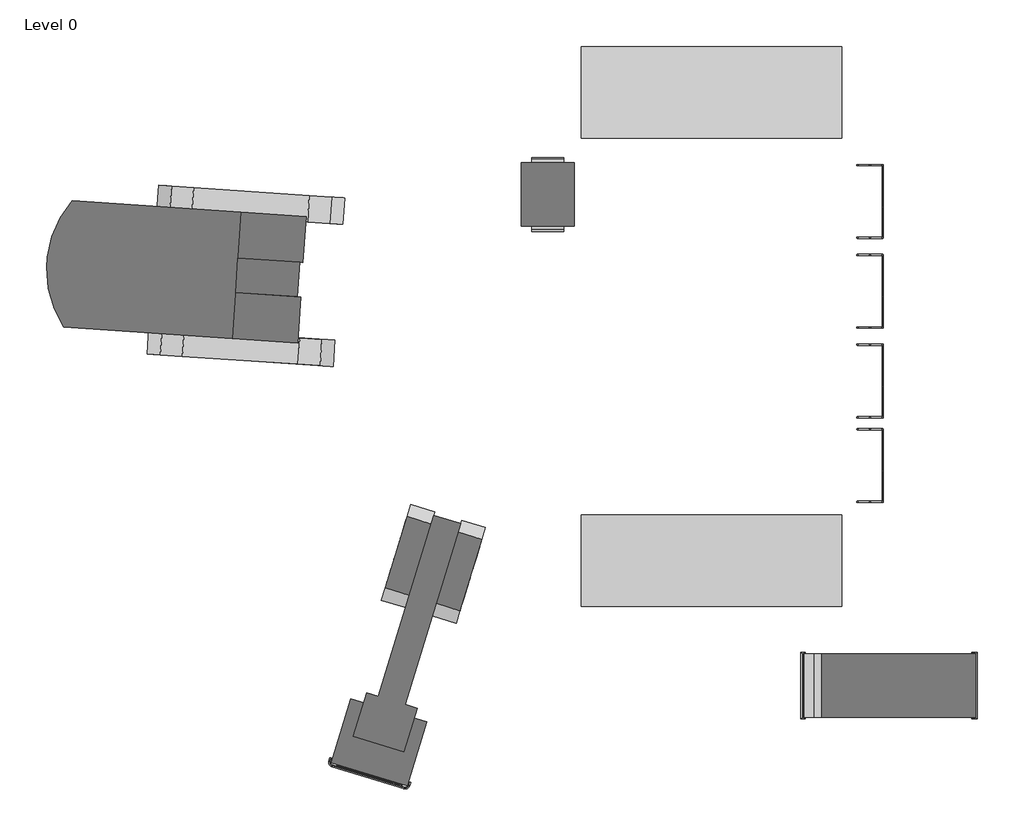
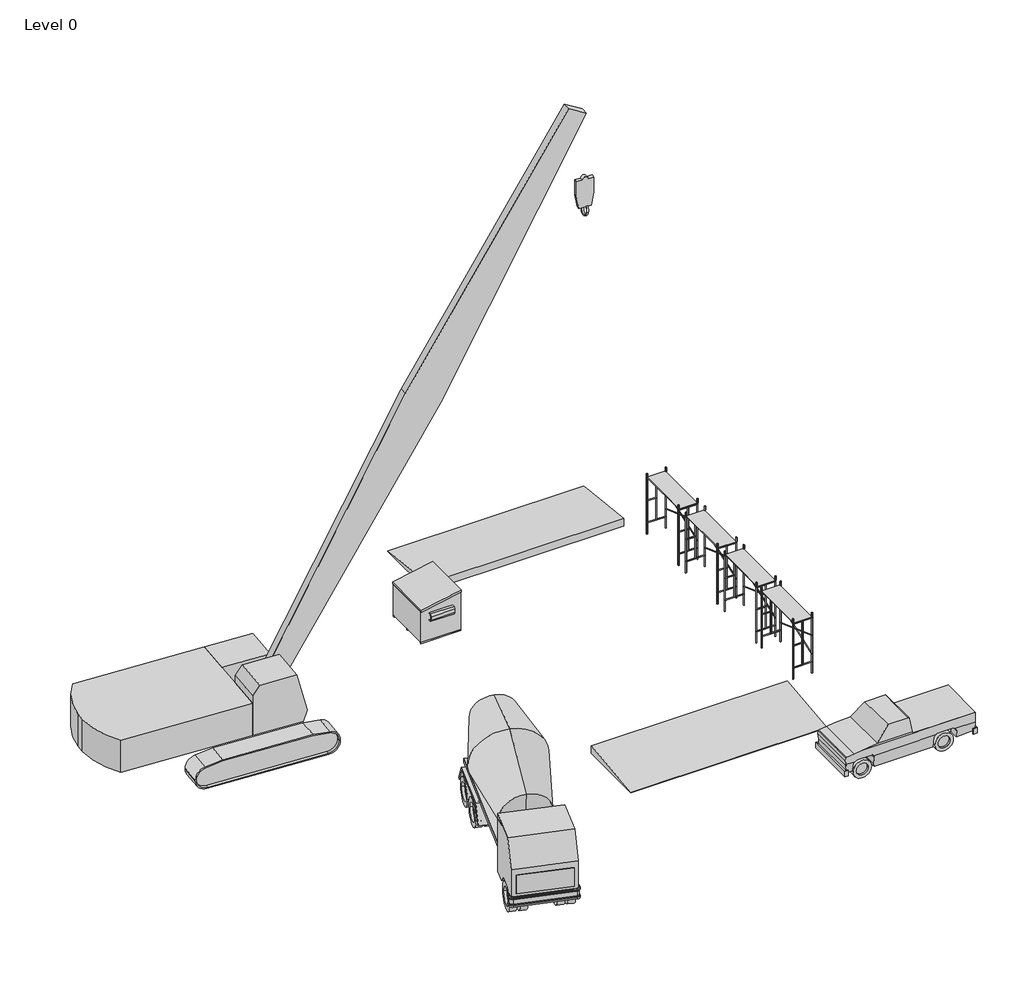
# One storey, incomplete: 8 geographic elements, 2 proxies.
"""IFC4 building model written with IfcOpenShell, lengths in millimetres."""

from ifc_helpers import new_model, si_unit, frame, origin, place, context, project, spatial, polyline, outline, extrude, transform, mapped, element, save
from components import geographic_element_1448792e, geographic_element_84_x_30_x_96_7b94d2d3, concrete_truck_concrete_truck_86626955, construction_crane_175cd510, truck_pick_up_pick_up_b584493c

model = new_model("IFC4")

# Units and contexts
model_context = context("Model", 3, world=origin())
ifc_project = project(units=[si_unit("LENGTHUNIT", "METRE", prefix="MILLI")], contexts=[model_context])

# Site, building, storey
site = spatial("IfcSite", under=ifc_project)
building = spatial("IfcBuilding", under=site)
storey = spatial("IfcBuildingStorey", under=building, Name="Level 0", Elevation=-304.8)

# Proxies
placement = place(None, origin())
element("IfcBuildingElementProxy", 1, Name="Ramp 1 : Ramp 1", ObjectType="Ramp 1 : Ramp 1", at=placement, inside=storey, context=model_context, shape_type="SweptSolid", body=[
    extrude(outline(polyline([(-3184.0448877, -304.8), (-5828.1990754, -304.8), (-5828.1990754, -283.4852644), (-3184.0448877, 0.0), (-3184.0448877, -304.8)])), frame((-4078.0999147, 0.0, 0.0), z_axis=(1.0, 0.0, 0.0), x_axis=(0.0, 1.0, 0.0)), (0.0, 0.0, 1.0), 7518.4),
])
element("IfcBuildingElementProxy", 2, Name="Ramp 2 : Ramp 1", ObjectType="Ramp 2 : Ramp 1", at=placement, inside=storey, context=model_context, shape_type="SweptSolid", body=[
    extrude(outline(polyline([(10331.3093, -304.8), (7687.1551123, -304.8), (7687.1551123, 0.0), (10331.3093, -283.4852644), (10331.3093, -304.8)])), frame((-4078.0999147, 0.0, 0.0), z_axis=(1.0, 0.0, 0.0), x_axis=(0.0, 1.0, 0.0)), (0.0, 0.0, 1.0), 7518.4),
])

# Geographic elements
geographic_element_shape = geographic_element_1448792e(model_context)
element("IfcGeographicElement", 3, ObjectType="Dumpster : 72\" x 60\"", at=placement, inside=storey, context=model_context, shape_type="MappedRepresentation", body=[
    mapped(geographic_element_shape, transform((-5043.2999147, 6061.5551123, -304.8), x_axis=(0.0, -1.0000000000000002, 0.0), y_axis=(1.0000000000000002, 0.0, 0.0), z_axis=(0.0, 0.0, 1.0))),
])
geographic_element_84_x_30_x_96_shape = geographic_element_84_x_30_x_96_7b94d2d3(model_context)
element("IfcGeographicElement", 4, ObjectType="Scaffolding : 84 x 30 x 96", at=placement, inside=storey, context=model_context, shape_type="MappedRepresentation", body=[
    mapped(geographic_element_84_x_30_x_96_shape, transform((4253.1000853, -1761.6448877, -304.8), x_axis=(0.0, 1.0, 0.0), y_axis=(-1.0, 0.0, 0.0), z_axis=(0.0, 0.0, 1.0))),
])
element("IfcGeographicElement", 5, ObjectType="Scaffolding : 84 x 30 x 96", at=placement, inside=storey, context=model_context, shape_type="MappedRepresentation", body=[
    mapped(geographic_element_84_x_30_x_96_shape, transform((4253.1000853, 676.7551123, -304.8), x_axis=(0.0, 1.0000000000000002, 0.0), y_axis=(-1.0000000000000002, 0.0, 0.0), z_axis=(0.0, 0.0, 1.0))),
])
element("IfcGeographicElement", 6, ObjectType="Scaffolding : 84 x 30 x 96", at=placement, inside=storey, context=model_context, shape_type="MappedRepresentation", body=[
    mapped(geographic_element_84_x_30_x_96_shape, transform((4253.1000853, 3267.5551123, -304.8), x_axis=(0.0, 1.0, 0.0), y_axis=(-1.0, 0.0, 0.0), z_axis=(0.0, 0.0, 1.0))),
])
element("IfcGeographicElement", 7, ObjectType="Scaffolding : 84 x 30 x 96", at=placement, inside=storey, context=model_context, shape_type="MappedRepresentation", body=[
    mapped(geographic_element_84_x_30_x_96_shape, transform((4253.1000853, 5858.3551123, -304.8), x_axis=(0.0, 1.0, 0.0), y_axis=(-1.0, 0.0, 0.0), z_axis=(0.0, 0.0, 1.0))),
])
concrete_truck_concrete_truck_shape = concrete_truck_concrete_truck_86626955(model_context)
element("IfcGeographicElement", 8, ObjectType="Concrete Truck : Concrete Truck", at=placement, inside=storey, context=model_context, shape_type="MappedRepresentation", body=[
    mapped(concrete_truck_concrete_truck_shape, transform((-9006.3794149, -6940.2513028, -304.8), x_axis=(0.9563047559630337, -0.2923717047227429, 0.0), y_axis=(0.2923717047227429, 0.9563047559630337, 0.0), z_axis=(0.0, 0.0, 1.0))),
])
construction_crane_shape = construction_crane_175cd510(model_context)
element("IfcGeographicElement", 9, ObjectType="Construction Crane : 75' @ 60 deg", at=placement, inside=storey, context=model_context, shape_type="MappedRepresentation", body=[
    mapped(construction_crane_shape, transform((-16265.0682167, 9573.2094485, -304.8), x_axis=(0.06769043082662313, 0.9977063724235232, 0.0), y_axis=(-0.9977063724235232, 0.06769043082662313, 0.0), z_axis=(0.0, 0.0, 1.0))),
])
truck_pick_up_pick_up_shape = truck_pick_up_pick_up_b584493c(model_context)
element("IfcGeographicElement", 10, ObjectType="Truck - Pick-Up : Pick-Up", at=placement, inside=storey, context=model_context, shape_type="MappedRepresentation", body=[
    mapped(truck_pick_up_pick_up_shape, transform((4285.3385468, -8079.4064262, -304.8), x_axis=(0.0, -1.0000000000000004, 0.0), y_axis=(1.0000000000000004, 0.0, 0.0), z_axis=(0.0, 0.0, 1.0))),
])

save(model, "model.ifc")
